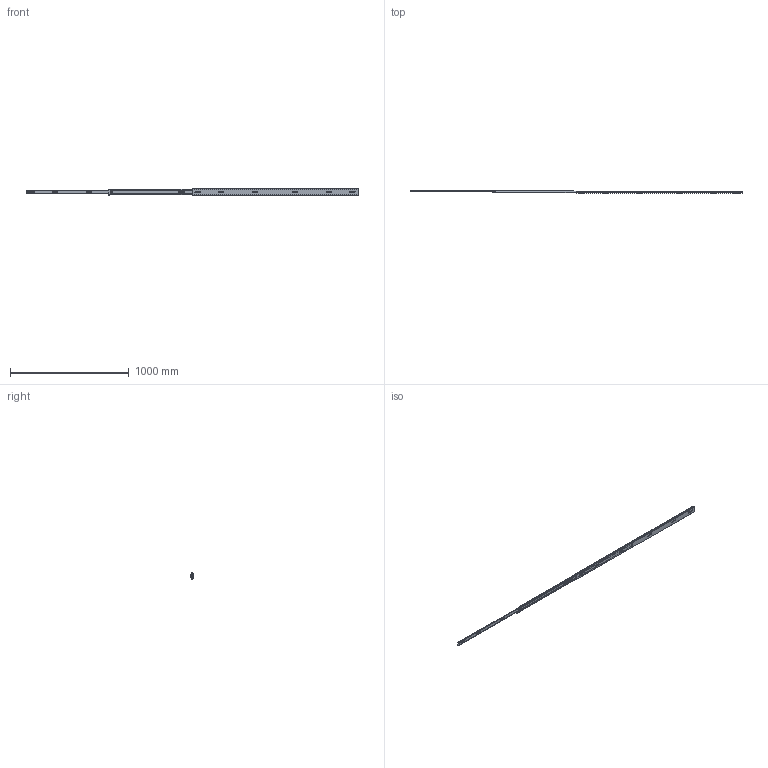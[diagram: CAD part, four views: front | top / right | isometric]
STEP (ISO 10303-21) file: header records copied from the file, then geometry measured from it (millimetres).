
FILE_DESCRIPTION((''),'2;1');
FILE_NAME('1057-C-56_ASM','2023-11-23T',('jishu015'),(''),'PRO/ENGINEER BY PARAMETRIC TECHNOLOGY CORPORATION, 2010280','PRO/ENGINEER BY PARAMETRIC TECHNOLOGY CORPORATION, 2010280','');
FILE_SCHEMA(('CONFIG_CONTROL_DESIGN'));
Products named in the file (19): KP-57-01WEIKE-31______________; MAODING-WAI______________; 1057DAZHUJIA-20GE111; 1057ZHUJIADANWEIJIAO1234_; 1057-5-6GANZHU1______________; 1057DAZHUJIA-20GE_12______ASM; 1057-C-20-KE_______________ASM; KP-57-01ZHONGGUI-36______; PEIJIAN-22______________; ZHUANJIAO112______________; LIUJIAO-DING11______________; MAODING-P______________; PEIJIAN-ZHONG_______________ASM; 1057XIAOZHUJIA___2011__; 1057XIAOZHUJIA-20GE11___ASM; KP-57-01ZHONGGUI-36_______ASM; KP-57-01NEIGUI-242; KP-57-01NEIGUI-242_ASM; 1057-C-56_ASM
Assembly tree (224 placements, depth 4):
  1057-C-56_ASM
    1057-C-20-KE_______________ASM
      KP-57-01WEIKE-31______________
      MAODING-WAI______________  x2
      1057DAZHUJIA-20GE_12______ASM
        1057DAZHUJIA-20GE111
        1057ZHUJIADANWEIJIAO1234_  x2
        1057-5-6GANZHU1______________  x100
    KP-57-01ZHONGGUI-36_______ASM
      KP-57-01ZHONGGUI-36______
      PEIJIAN-ZHONG_______________ASM  x2
        PEIJIAN-22______________
        ZHUANJIAO112______________
        LIUJIAO-DING11______________
        MAODING-P______________
      MAODING-WAI______________  x2
      1057XIAOZHUJIA-20GE11___ASM
        1057XIAOZHUJIA___2011__
        1057-5-6GANZHU1______________  x100
        1057ZHUJIADANWEIJIAO1234_  x2
    KP-57-01NEIGUI-242_ASM
      KP-57-01NEIGUI-242
Bounding box: 2800 x 19.8 x 57.69 mm (x, y, z)
Volume: 611640.2 mm3; surface area: 717164.3 mm2
Topology: 221 solids, 221 shells, 5402 faces, 15046 edges, 9280 vertices
Faces by surface type: plane 2416, cylinder 2224, sphere 406, bspline 154, cone 114, torus 88
Entity records: 156574 total; most frequent: CARTESIAN_POINT 32483, DIRECTION 26444, ORIENTED_EDGE 25714, EDGE_CURVE 12857, AXIS2_PLACEMENT_3D 9112, VERTEX_POINT 8264, VECTOR 8220, LINE 8220
